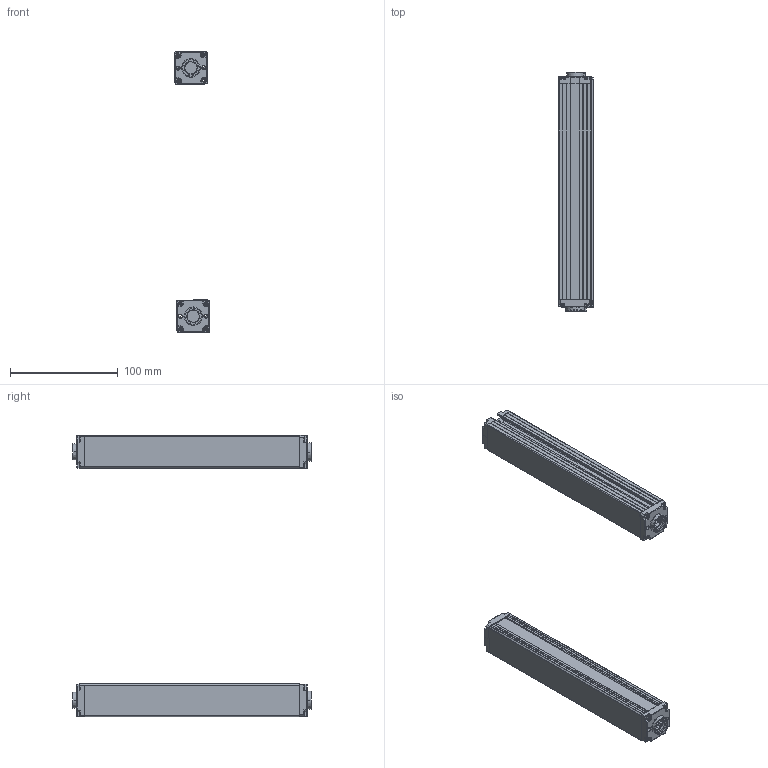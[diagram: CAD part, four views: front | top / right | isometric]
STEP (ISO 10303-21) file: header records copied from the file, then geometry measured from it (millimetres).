
FILE_DESCRIPTION (( 'STEP AP203' ), '1' );
FILE_NAME ('ZDA1810-200.STEP', '2022-08-30T03:35:14', ( 'Windows 蚚誧' ), ( 'Organization' ), 'SwSTEP 2.0', 'SolidWorks 2020', '' );
FILE_SCHEMA (( 'CONFIG_CONTROL_DESIGN' ));
Length unit declared in the file: millimetre
Products named in the file (5): 錨璃1; 錨璃10; 錨璃8; ZDA1810-200; 錨璃8 - 萵掛 (2)
Assembly tree (8 placements, depth 2):
  ZDA1810-200
    錨璃1  x2
    錨璃8  x2
    錨璃8 - 萵掛 (2)  x2
    錨璃10  x2
Bounding box: 32.36 x 221.4 x 260.35 mm (x, y, z)
Volume: 136381.1 mm3; surface area: 147021.7 mm2
Topology: 8 solids, 8 shells, 1032 faces, 2690 edges, 1668 vertices
Faces by surface type: plane 464, cylinder 310, cone 120, bspline 58, torus 48, sphere 32
Entity records: 17901 total; most frequent: CARTESIAN_POINT 4731, ORIENTED_EDGE 2666, DIRECTION 2616, EDGE_CURVE 1333, AXIS2_PLACEMENT_3D 894, VERTEX_POINT 834, LINE 828, VECTOR 828
